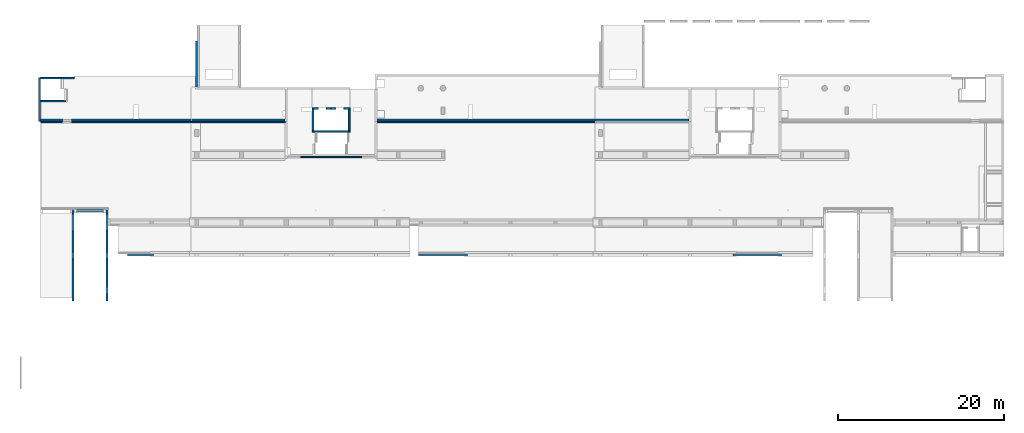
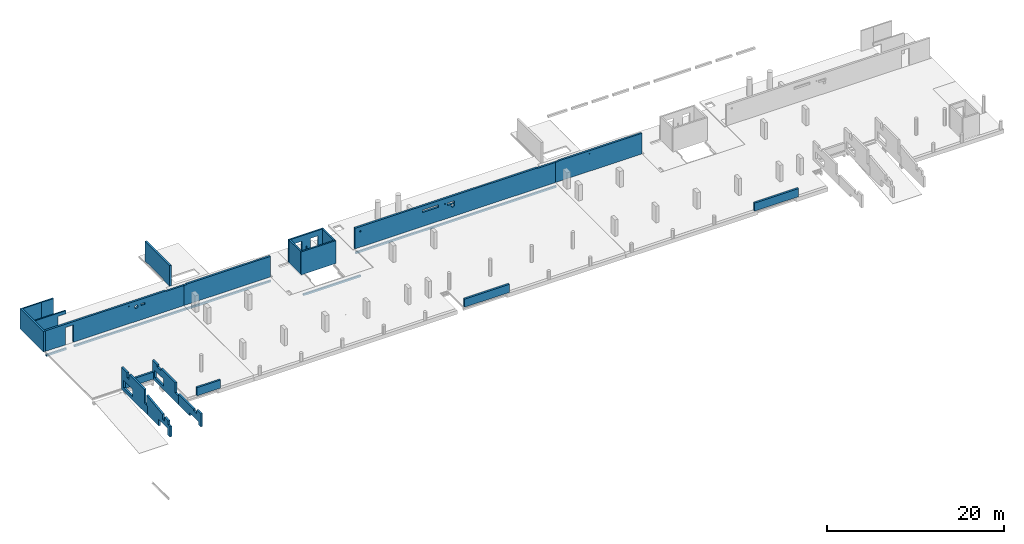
# One storey, part 6 of 10: 26 walls, 32 openings.
"""IFC2X3 building model written with IfcOpenShell, lengths in millimetres."""

from ifc_helpers import new_model, entity, si_unit, converted_unit, derived_unit, direction, frame, frame_2d, origin, origin_2d_with_axis, place, context, subcontext, project, spatial, polyline, rectangle, circle, outline, extrude, clip, halfspace, material, layer, layer_set, layer_usage, type_object, element, save


model = new_model("IFC2X3")

# Units and contexts
model_context = context("Model", 3, precision=0.01, world=origin(), true_north=direction((6.12303176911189e-17, 1.0)))
body_context = subcontext(model_context, "Body", "Model", "MODEL_VIEW")
ifc_project = project(units=[si_unit("LENGTHUNIT", "METRE", prefix="MILLI"), si_unit("AREAUNIT", "SQUARE_METRE"), si_unit("VOLUMEUNIT", "CUBIC_METRE"), converted_unit("PLANEANGLEUNIT", "DEGREE", entity("IfcRatioMeasure", 0.0174532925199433), si_unit("PLANEANGLEUNIT", "RADIAN"), dimensions=[0, 0, 0, 0, 0, 0, 0]), si_unit("MASSUNIT", "GRAM", prefix="KILO"), derived_unit("MASSDENSITYUNIT", [(si_unit("MASSUNIT", "GRAM", prefix="KILO"), 1), (si_unit("LENGTHUNIT", "METRE"), -3)]), si_unit("TIMEUNIT", "SECOND"), si_unit("FREQUENCYUNIT", "HERTZ"), si_unit("THERMODYNAMICTEMPERATUREUNIT", "DEGREE_CELSIUS"), derived_unit("THERMALTRANSMITTANCEUNIT", [(si_unit("MASSUNIT", "GRAM", prefix="KILO"), 1), (si_unit("THERMODYNAMICTEMPERATUREUNIT", "KELVIN"), -1), (si_unit("TIMEUNIT", "SECOND"), -3)]), derived_unit("VOLUMETRICFLOWRATEUNIT", [(si_unit("LENGTHUNIT", "METRE"), 3), (si_unit("TIMEUNIT", "SECOND"), -1)]), si_unit("ELECTRICCURRENTUNIT", "AMPERE"), si_unit("ELECTRICVOLTAGEUNIT", "VOLT"), si_unit("POWERUNIT", "WATT"), si_unit("FORCEUNIT", "NEWTON", prefix="KILO"), si_unit("ILLUMINANCEUNIT", "LUX"), si_unit("LUMINOUSFLUXUNIT", "LUMEN"), si_unit("LUMINOUSINTENSITYUNIT", "CANDELA"), derived_unit("USERDEFINED", [(si_unit("MASSUNIT", "GRAM", prefix="KILO"), -1), (si_unit("LENGTHUNIT", "METRE"), -2), (si_unit("TIMEUNIT", "SECOND"), 3), (si_unit("LUMINOUSFLUXUNIT", "LUMEN"), 1)]), derived_unit("LINEARVELOCITYUNIT", [(si_unit("LENGTHUNIT", "METRE"), 1), (si_unit("TIMEUNIT", "SECOND"), -1)]), si_unit("PRESSUREUNIT", "PASCAL"), derived_unit("USERDEFINED", [(si_unit("LENGTHUNIT", "METRE"), -2), (si_unit("MASSUNIT", "GRAM", prefix="KILO"), 1), (si_unit("TIMEUNIT", "SECOND"), -2)])], contexts=[model_context])

# Site, building, storey
site_placement = place(None, origin())
site = spatial("IfcSite", under=ifc_project, at=site_placement, Name="Default", CompositionType="ELEMENT")
building_placement = place(site_placement, origin())
building = spatial("IfcBuilding", under=site, at=building_placement, Name="niet gebruiken", CompositionType="ELEMENT")
storey_placement = place(building_placement, frame((0.0, 0.0, 9410.0)))
storey = spatial("IfcBuildingStorey", under=building, at=storey_placement, Name="02b tweede tussenverdieping", CompositionType="ELEMENT", Elevation=9409.99999999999)

# Wall, openings
ifc_material_1 = material(Name="NLRS_f2_beton ihwg")
ifc_layer_1 = layer(ifc_material_1, 250.0)
ifc_layer_set_1 = layer_set([ifc_layer_1], Name="Basic Wall:NLRS_22.21_WA_beton ihwg d=250_gen")
ifc_layer_usage_1 = layer_usage(ifc_layer_set_1, "AXIS2", "NEGATIVE", 125.0)
wall_type_1 = type_object("IfcWallType", Name="Basic Wall:NLRS_22.21_WA_beton ihwg d=250_gen", PredefinedType="STANDARD", material=ifc_layer_set_1)
wall_1_placement = place(storey_placement, frame((86275.0, 41186.0, 0.0), z_axis=(0.0, 0.0, 1.0), x_axis=(-1.0, 0.0, 0.0)))
wall_1 = element("IfcWallStandardCase", 1, at=wall_1_placement, inside=storey, type_object=wall_type_1, material=ifc_layer_usage_1, Name="Basic Wall:NLRS_22.21_WA_beton ihwg d=250_gen", ObjectType="Basic Wall:NLRS_22.21_WA_beton ihwg d=250_gen", context=body_context, shape_type="SweptSolid", body=[
    extrude(rectangle(XDim=11305.0000000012, YDim=249.999999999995, at=frame_2d((5652.5000000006, 2.91322521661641e-12), x_axis=(-1.0, 0.0))), origin(), (0.0, 0.0, 1.0), 2850.00000000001),
])
opening_1_placement = place(wall_1_placement, origin())
element("IfcOpeningElement", 2, at=opening_1_placement, cuts=wall_1, Name="Basic Wall:NLRS_22.21_WA_beton ihwg d=250_gen", ObjectType="Opening", context=body_context, shape_type="SweptSolid", body=[
    extrude(circle(Radius=55.0, at=origin_2d_with_axis()), frame((6885.0, -125.0, 2420.0), z_axis=(0.0, 1.0, 0.0), x_axis=(-1.0, 0.0, 0.0)), (0.0, 0.0, 1.0), 250.000000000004),
])
opening_2_placement = place(wall_1_placement, origin())
element("IfcOpeningElement", 3, at=opening_2_placement, cuts=wall_1, Name="Basic Wall:NLRS_22.21_WA_beton ihwg d=250_gen", ObjectType="Opening", context=body_context, shape_type="SweptSolid", body=[
    extrude(rectangle(XDim=69.9999999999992, YDim=355.000000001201, at=frame_2d((1.08002495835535e-12, 0.0), x_axis=(1.0, 0.0))), frame((11127.5000000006, 125.0, 2815.0), z_axis=(0.0, -1.0, 0.0), x_axis=(0.0, 0.0, 1.0)), (0.0, 0.0, 1.0), 250.0),
])

# Wall, opening
ifc_layer_usage_2 = layer_usage(ifc_layer_set_1, "AXIS2", "NEGATIVE", 125.0)
wall_2_placement = place(storey_placement, frame((37675.0, 41186.0, 0.0), z_axis=(0.0, 0.0, 1.0), x_axis=(-1.0, 0.0, 0.0)))
wall_2 = element("IfcWallStandardCase", 4, at=wall_2_placement, inside=storey, type_object=wall_type_1, material=ifc_layer_usage_2, Name="Basic Wall:NLRS_22.21_WA_beton ihwg d=250_gen", ObjectType="Basic Wall:NLRS_22.21_WA_beton ihwg d=250_gen", context=body_context, shape_type="SweptSolid", body=[
    extrude(rectangle(XDim=11304.9999999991, YDim=249.999999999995, at=frame_2d((5652.49999999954, -1.4210854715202e-12), x_axis=(-1.0, 0.0))), origin(), (0.0, 0.0, 1.0), 2849.99999999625),
])
opening_3_placement = place(wall_2_placement, origin())
element("IfcOpeningElement", 5, at=opening_3_placement, cuts=wall_2, Name="Basic Wall:NLRS_22.21_WA_beton ihwg d=250_gen", ObjectType="Opening", context=body_context, shape_type="SweptSolid", body=[
    extrude(rectangle(XDim=74.9999999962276, YDim=355.000000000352, at=origin_2d_with_axis()), frame((11127.4999999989, 125.0, 2812.49999999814), z_axis=(0.0, -1.0, 0.0), x_axis=(0.0, 0.0, 1.0)), (0.0, 0.0, 1.0), 250.0),
])

# Wall, openings
ifc_layer_usage_3 = layer_usage(ifc_layer_set_1, "AXIS2", "NEGATIVE", 125.0)
wall_3_placement = place(storey_placement, frame((74950.0, 41186.0, 0.0), z_axis=(0.0, 0.0, 1.0), x_axis=(-1.0, 0.0, 0.0)))
wall_3 = element("IfcWallStandardCase", 6, at=wall_3_placement, inside=storey, type_object=wall_type_1, material=ifc_layer_usage_3, Name="Basic Wall:NLRS_22.21_WA_beton ihwg d=250_gen", ObjectType="Basic Wall:NLRS_22.21_WA_beton ihwg d=250_gen", context=body_context, shape_type="SweptSolid", body=[
    extrude(rectangle(XDim=26224.9999999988, YDim=249.999999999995, at=frame_2d((13112.4999999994, -2.26663132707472e-12), x_axis=(-1.0, 0.0))), origin(), (0.0, 0.0, 1.0), 2850.00000000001),
])
opening_4_placement = place(wall_3_placement, origin())
element("IfcOpeningElement", 7, at=opening_4_placement, cuts=wall_3, Name="Basic Wall:NLRS_22.21_WA_beton ihwg d=250_gen", ObjectType="Opening", context=body_context, shape_type="SweptSolid", body=[
    extrude(rectangle(XDim=350.000000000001, YDim=2120.0, at=frame_2d((-1.08002495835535e-12, 0.0), x_axis=(1.0, 0.0))), frame((16360.0, -125.0, 2115.0), z_axis=(0.0, 1.0, 0.0), x_axis=(0.0, 0.0, -1.0)), (0.0, 0.0, 1.0), 249.999999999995),
])
opening_5_placement = place(wall_3_placement, origin())
element("IfcOpeningElement", 8, at=opening_5_placement, cuts=wall_3, Name="Basic Wall:NLRS_22.21_WA_beton ihwg d=250_gen", ObjectType="Opening", context=body_context, shape_type="SweptSolid", body=[
    extrude(rectangle(XDim=350.000000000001, YDim=950.000000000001, at=frame_2d((1.08002495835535e-12, 0.0), x_axis=(1.0, 0.0))), frame((13675.0, -125.0, 1935.0), z_axis=(0.0, 1.0, 0.0), x_axis=(0.0, 0.0, -1.0)), (0.0, 0.0, 1.0), 249.999999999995),
])
opening_6_placement = place(wall_3_placement, origin())
element("IfcOpeningElement", 9, at=opening_6_placement, cuts=wall_3, Name="Basic Wall:NLRS_22.21_WA_beton ihwg d=250_gen", ObjectType="Opening", context=body_context, shape_type="SweptSolid", body=[
    extrude(circle(Radius=225.0, at=origin_2d_with_axis()), frame((13425.0, -125.0, 1520.0), z_axis=(0.0, 1.0, 0.0), x_axis=(-1.0, 0.0, 0.0)), (0.0, 0.0, 1.0), 250.000000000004),
])
opening_7_placement = place(wall_3_placement, origin())
element("IfcOpeningElement", 10, at=opening_7_placement, cuts=wall_3, Name="Basic Wall:NLRS_22.21_WA_beton ihwg d=250_gen", ObjectType="Opening", context=body_context, shape_type="SweptSolid", body=[
    extrude(circle(Radius=80.0, at=origin_2d_with_axis()), frame((14465.0, -125.0, 2105.0), z_axis=(0.0, 1.0, 0.0), x_axis=(-1.0, 0.0, 0.0)), (0.0, 0.0, 1.0), 250.000000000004),
])
opening_8_placement = place(wall_3_placement, origin())
element("IfcOpeningElement", 11, at=opening_8_placement, cuts=wall_3, Name="Basic Wall:NLRS_22.21_WA_beton ihwg d=250_gen", ObjectType="Opening", context=body_context, shape_type="SweptSolid", body=[
    extrude(circle(Radius=100.0, at=origin_2d_with_axis()), frame((25525.0, -125.0, 2200.0), z_axis=(0.0, 1.0, 0.0), x_axis=(-1.0, 0.0, 0.0)), (0.0, 0.0, 1.0), 250.000000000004),
])
opening_9_placement = place(wall_3_placement, origin())
element("IfcOpeningElement", 12, at=opening_9_placement, cuts=wall_3, Name="Basic Wall:NLRS_22.21_WA_beton ihwg d=250_gen", ObjectType="Opening", context=body_context, shape_type="SweptSolid", body=[
    extrude(rectangle(XDim=69.9999999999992, YDim=2344.99999999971, at=frame_2d((-8.64019966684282e-12, -1.08002495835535e-12), x_axis=(0.0, 1.0))), frame((1172.49999999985, 125.0, 2815.0), z_axis=(0.0, -1.0, 0.0), x_axis=(-1.0, 0.0, 0.0)), (0.0, 0.0, 1.0), 250.0),
])

ifc_layer_usage_4 = layer_usage(ifc_layer_set_1, "AXIS2", "NEGATIVE", 125.0)
wall_4_placement = place(storey_placement, frame((26350.0, 41186.0, 0.0), z_axis=(0.0, 0.0, 1.0), x_axis=(-1.0, 0.0, 0.0)))
wall_4 = element("IfcWallStandardCase", 13, at=wall_4_placement, inside=storey, type_object=wall_type_1, material=ifc_layer_usage_4, Name="Basic Wall:NLRS_22.21_WA_beton ihwg d=250_gen", ObjectType="Basic Wall:NLRS_22.21_WA_beton ihwg d=250_gen", context=body_context, shape_type="SweptSolid", body=[
    extrude(rectangle(XDim=18124.9999999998, YDim=249.999999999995, at=frame_2d((9062.49999999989, -1.30739863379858e-12), x_axis=(-1.0, 0.0))), origin(), (0.0, 0.0, 1.0), 2849.9999999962),
])
opening_10_placement = place(wall_4_placement, origin())
element("IfcOpeningElement", 14, at=opening_10_placement, cuts=wall_4, Name="Basic Wall:NLRS_22.21_WA_beton ihwg d=250_gen", ObjectType="Opening", context=body_context, shape_type="SweptSolid", body=[
    extrude(rectangle(XDim=2380.0, YDim=1025.0, at=frame_2d((-1.08002495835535e-12, -1.02318153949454e-12), x_axis=(0.0, 1.0))), frame((14937.5000000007, -1399.0, 1190.0), z_axis=(0.0, 1.0, 0.0), x_axis=(-1.0, 0.0, 0.0)), (0.0, 0.0, 1.0), 3048.0),
])
opening_11_placement = place(wall_4_placement, origin())
element("IfcOpeningElement", 15, at=opening_11_placement, cuts=wall_4, Name="Basic Wall:NLRS_22.21_WA_beton ihwg d=250_gen", ObjectType="Opening", context=body_context, shape_type="SweptSolid", body=[
    extrude(circle(Radius=225.0, at=origin_2d_with_axis()), frame((6215.0, -125.0, 2020.0), z_axis=(0.0, 1.0, 0.0), x_axis=(-1.0, 0.0, 0.0)), (0.0, 0.0, 1.0), 250.000000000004),
])
opening_12_placement = place(wall_4_placement, origin())
element("IfcOpeningElement", 16, at=opening_12_placement, cuts=wall_4, Name="Basic Wall:NLRS_22.21_WA_beton ihwg d=250_gen", ObjectType="Opening", context=body_context, shape_type="SweptSolid", body=[
    extrude(rectangle(XDim=249.999999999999, YDim=550.000000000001, at=frame_2d((0.0, -2.1600499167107e-12), x_axis=(1.0, 0.0))), frame((5365.0, -125.0, 2090.0), z_axis=(0.0, 1.0, 0.0), x_axis=(0.0, 0.0, -1.0)), (0.0, 0.0, 1.0), 249.999999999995),
])
opening_13_placement = place(wall_4_placement, origin())
element("IfcOpeningElement", 17, at=opening_13_placement, cuts=wall_4, Name="Basic Wall:NLRS_22.21_WA_beton ihwg d=250_gen", ObjectType="Opening", context=body_context, shape_type="SweptSolid", body=[
    extrude(circle(Radius=55.0, at=origin_2d_with_axis()), frame((7190.0, -125.0, 2420.0), z_axis=(0.0, 1.0, 0.0), x_axis=(-1.0, 0.0, 0.0)), (0.0, 0.0, 1.0), 450.000000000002),
])
opening_14_placement = place(wall_4_placement, origin())
element("IfcOpeningElement", 18, at=opening_14_placement, cuts=wall_4, Name="Basic Wall:NLRS_22.21_WA_beton ihwg d=250_gen", ObjectType="Opening", context=body_context, shape_type="SweptSolid", body=[
    extrude(rectangle(XDim=69.9999999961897, YDim=2344.99999999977, at=frame_2d((2.1600499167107e-12, 0.0), x_axis=(0.0, 1.0))), frame((1172.49999999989, 125.0, 2815.0), z_axis=(0.0, -1.0, 0.0), x_axis=(-1.0, 0.0, 0.0)), (0.0, 0.0, 1.0), 250.0),
])

# Wall
ifc_material_2 = material(Name="NLRS_f2_beton prefab")
ifc_layer_2 = layer(ifc_material_2, 250.0)
ifc_layer_set_2 = layer_set([ifc_layer_2], Name="Basic Wall:NLRS_22.21_WA_beton prefab d=250_gen")
ifc_layer_usage_5 = layer_usage(ifc_layer_set_2, "AXIS2", "NEGATIVE", 125.0)
wall_type_2 = type_object("IfcWallType", Name="Basic Wall:NLRS_22.21_WA_beton prefab d=250_gen", PredefinedType="STANDARD", material=ifc_layer_set_2)
wall_5_placement = place(storey_placement, frame((8100.0, 41061.0, 20.0), z_axis=(0.0, 0.0, 1.0), x_axis=(0.0, 1.0, 0.0)))
element("IfcWallStandardCase", 19, at=wall_5_placement, inside=storey, type_object=wall_type_2, material=ifc_layer_usage_5, Name="Basic Wall:NLRS_22.21_WA_beton prefab d=250_gen", ObjectType="Basic Wall:NLRS_22.21_WA_beton prefab d=250_gen", context=body_context, shape_type="SweptSolid", body=[
    extrude(rectangle(XDim=5294.99999999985, YDim=249.999999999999, at=frame_2d((2647.49999999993, 2.41584530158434e-13), x_axis=(-1.0, 0.0))), origin(), (0.0, 0.0, 1.0), 2829.9999999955),
])

# Wall, openings
ifc_layer_usage_6 = layer_usage(ifc_layer_set_2, "AXIS2", "NEGATIVE", 125.0)
wall_6_placement = place(storey_placement, frame((16200.0, 30426.0, -50.0), z_axis=(0.0, 0.0, 1.0), x_axis=(0.0, -1.0, 0.0)))
wall_6 = element("IfcWallStandardCase", 20, at=wall_6_placement, inside=storey, type_object=wall_type_2, material=ifc_layer_usage_6, Name="Basic Wall:NLRS_22.21_WA_beton prefab d=250_gen", ObjectType="Basic Wall:NLRS_22.21_WA_beton prefab d=250_gen", context=body_context, shape_type="Clipping", body=[
    clip(extrude(rectangle(XDim=5935.0, YDim=249.999999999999, at=frame_2d((2967.5, 0.0), x_axis=(-1.0, 0.0))), origin(), (0.0, 0.0, 1.0), 2580.0), halfspace(frame((0.0, -125.0, 2580.0), z_axis=(0.0, 0.0, 1.0), x_axis=(0.0, 1.0, 0.0)), False)),
])
opening_15_placement = place(wall_6_placement, origin())
element("IfcOpeningElement", 21, at=opening_15_placement, cuts=wall_6, Name="Basic Wall:NLRS_22.21_WA_beton prefab d=250_gen", ObjectType="Opening", context=body_context, shape_type="SweptSolid", body=[
    extrude(rectangle(XDim=1020.0, YDim=2000.0, at=frame_2d((0.0, -2.1600499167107e-12), x_axis=(1.0, 0.0))), frame((1550.0, -1649.0, 990.0), z_axis=(0.0, 1.0, 0.0), x_axis=(0.0, 0.0, 1.0)), (0.0, 0.0, 1.0), 3048.0),
])
opening_16_placement = place(wall_6_placement, origin())
element("IfcOpeningElement", 22, at=opening_16_placement, cuts=wall_6, Name="Basic Wall:NLRS_22.21_WA_beton prefab d=250_gen", ObjectType="Opening", context=body_context, shape_type="SweptSolid", body=[
    extrude(rectangle(XDim=1380.0, YDim=730.000000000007, at=frame_2d((1.08002495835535e-12, 0.0), x_axis=(1.0, 0.0))), frame((5570.0, 125.0, 1890.0), z_axis=(0.0, -1.0, 0.0), x_axis=(0.0, 0.0, 1.0)), (0.0, 0.0, 1.0), 250.0),
])
opening_17_placement = place(wall_6_placement, origin())
element("IfcOpeningElement", 23, at=opening_17_placement, cuts=wall_6, Name="Basic Wall:NLRS_22.21_WA_beton prefab d=250_gen", ObjectType="Opening", context=body_context, shape_type="SweptSolid", body=[
    extrude(rectangle(XDim=259.999999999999, YDim=840.0, at=frame_2d((0.0, 1.08002495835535e-12), x_axis=(0.0, 1.0))), frame((1545.0, 125.0, 2450.0), z_axis=(0.0, -1.0, 0.0), x_axis=(-1.0, 0.0, 0.0)), (0.0, 0.0, 1.0), 250.0),
])

ifc_layer_usage_7 = layer_usage(ifc_layer_set_2, "AXIS2", "NEGATIVE", 125.0)
wall_7_placement = place(storey_placement, frame((12150.0, 30426.0, -50.0), z_axis=(0.0, 0.0, 1.0), x_axis=(0.0, -1.0, 0.0)))
wall_7 = element("IfcWallStandardCase", 24, at=wall_7_placement, inside=storey, type_object=wall_type_2, material=ifc_layer_usage_7, Name="Basic Wall:NLRS_22.21_WA_beton prefab d=250_gen", ObjectType="Basic Wall:NLRS_22.21_WA_beton prefab d=250_gen", context=body_context, shape_type="SweptSolid", body=[
    extrude(rectangle(XDim=5935.00000000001, YDim=249.999999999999, at=frame_2d((2967.50000000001, 0.0), x_axis=(-1.0, 0.0))), origin(), (0.0, 0.0, 1.0), 3080.0),
])
opening_18_placement = place(wall_7_placement, origin())
element("IfcOpeningElement", 25, at=opening_18_placement, cuts=wall_7, Name="Basic Wall:NLRS_22.21_WA_beton prefab d=250_gen", ObjectType="Opening", context=body_context, shape_type="SweptSolid", body=[
    extrude(rectangle(XDim=1020.0, YDim=2000.0, at=frame_2d((0.0, -2.1600499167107e-12), x_axis=(1.0, 0.0))), frame((1550.0, -1649.0, 990.0), z_axis=(0.0, 1.0, 0.0), x_axis=(0.0, 0.0, 1.0)), (0.0, 0.0, 1.0), 3048.0),
])
opening_19_placement = place(wall_7_placement, origin())
element("IfcOpeningElement", 26, at=opening_19_placement, cuts=wall_7, Name="Basic Wall:NLRS_22.21_WA_beton prefab d=250_gen", ObjectType="Opening", context=body_context, shape_type="SweptSolid", body=[
    extrude(rectangle(XDim=1880.0, YDim=729.999999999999, at=origin_2d_with_axis()), frame((5570.0, 125.0, 2140.0), z_axis=(0.0, -1.0, 0.0), x_axis=(0.0, 0.0, 1.0)), (0.0, 0.0, 1.0), 250.0),
])
opening_20_placement = place(wall_7_placement, origin())
element("IfcOpeningElement", 27, at=opening_20_placement, cuts=wall_7, Name="Basic Wall:NLRS_22.21_WA_beton prefab d=250_gen", ObjectType="Opening", context=body_context, shape_type="SweptSolid", body=[
    extrude(outline(polyline([(-755.0, -279.666666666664), (1030.0, -279.666666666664), (1030.0, -199.666666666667), (-275.0, -199.666666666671), (-275.0, 479.333333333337), (-755.0, 479.333333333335), (-755.0, -279.666666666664)])), frame((1030.0, 125.0, 2800.33333333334), z_axis=(0.0, -1.0, 0.0), x_axis=(-1.0, 0.0, 0.0)), (0.0, 0.0, 1.0), 250.0),
])

# Wall
ifc_layer_usage_8 = layer_usage(ifc_layer_set_2, "AXIS2", "NEGATIVE", 125.0)
wall_8_placement = place(storey_placement, frame((12275.0, 30301.0, 30.0)))
element("IfcWallStandardCase", 28, at=wall_8_placement, inside=storey, type_object=wall_type_2, material=ifc_layer_usage_8, Name="Basic Wall:NLRS_22.21_WA_beton prefab d=250_gen", ObjectType="Basic Wall:NLRS_22.21_WA_beton prefab d=250_gen", context=body_context, shape_type="SweptSolid", body=[
    extrude(rectangle(XDim=3799.99999999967, YDim=250.000000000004, at=frame_2d((1899.99999999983, -1.27897692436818e-13), x_axis=(-1.0, 0.0))), origin(), (0.0, 0.0, 1.0), 969.999999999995),
])

# Wall, openings
ifc_layer_usage_9 = layer_usage(ifc_layer_set_2, "AXIS2", "NEGATIVE", 125.0)
wall_9_placement = place(storey_placement, frame((12150.0, 24731.0, -50.0), z_axis=(0.0, 0.0, 1.0), x_axis=(0.0, -1.0, 0.0)))
wall_9 = element("IfcWallStandardCase", 29, at=wall_9_placement, inside=storey, type_object=wall_type_2, material=ifc_layer_usage_9, Name="Basic Wall:NLRS_22.21_WA_beton prefab d=250_gen", ObjectType="Basic Wall:NLRS_22.21_WA_beton prefab d=250_gen", context=body_context, shape_type="Clipping", body=[
    clip(clip(clip(clip(extrude(rectangle(XDim=5304.99999999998, YDim=249.999999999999, at=frame_2d((2652.49999999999, 0.0), x_axis=(-1.0, 0.0))), origin(), (0.0, 0.0, 1.0), 2589.58593307), halfspace(frame((0.0, -125.0, 2589.58593307), z_axis=(0.12382691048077, 0.0, 0.992303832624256), x_axis=(0.0, 1.0, 0.0)), False)), halfspace(frame((4125.0, -125.0, 2074.83834373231), z_axis=(0.123826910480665, 0.0, 0.992303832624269), x_axis=(0.0, 1.0, 0.0)), False)), halfspace(frame((3645.0, 0.0, 2134.73624503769), z_axis=(0.123826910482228, 0.0, 0.992303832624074), x_axis=(0.0, -1.0, 0.0)), False)), halfspace(frame((4885.0, 0.0, 1980.0), z_axis=(0.771930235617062, 0.0, 0.635707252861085), x_axis=(0.0, -1.0, 0.0)), False)),
])
opening_21_placement = place(wall_9_placement, origin())
element("IfcOpeningElement", 30, at=opening_21_placement, cuts=wall_9, Name="Basic Wall:NLRS_22.21_WA_beton prefab d=250_gen", ObjectType="Opening", context=body_context, shape_type="SweptSolid", body=[
    extrude(rectangle(XDim=939.999999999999, YDim=2000.0, at=frame_2d((0.0, -2.1600499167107e-12), x_axis=(1.0, 0.0))), frame((3755.0, 125.0, 470.0), z_axis=(0.0, -1.0, 0.0), x_axis=(0.0, 0.0, 1.0)), (0.0, 0.0, 1.0), 250.0),
])
opening_22_placement = place(wall_9_placement, origin())
element("IfcOpeningElement", 31, at=opening_22_placement, cuts=wall_9, Name="Basic Wall:NLRS_22.21_WA_beton prefab d=250_gen", ObjectType="Opening", context=body_context, shape_type="SweptSolid", body=[
    extrude(rectangle(XDim=1220.0, YDim=259.999999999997, at=frame_2d((1.08002495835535e-12, 2.1600499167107e-12), x_axis=(1.0, 0.0))), frame((130.0, 125.0, 610.0), z_axis=(0.0, -1.0, 0.0), x_axis=(0.0, 0.0, 1.0)), (0.0, 0.0, 1.0), 250.0),
])
opening_23_placement = place(wall_9_placement, origin())
element("IfcOpeningElement", 32, at=opening_23_placement, cuts=wall_9, Name="Basic Wall:NLRS_22.21_WA_beton prefab d=250_gen", ObjectType="Opening", context=body_context, shape_type="SweptSolid", body=[
    extrude(outline(polyline([(-347.342597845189, -240.0), (317.393647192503, -240.0), (317.3936471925, 240.0), (-287.444696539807, 240.0), (-347.342597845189, -240.0)])), frame((3885.0, 125.0, 1787.3936471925), z_axis=(0.0, -1.0, 0.0), x_axis=(0.0, 0.0, -1.0)), (0.0, 0.0, 1.0), 250.0),
])
opening_24_placement = place(wall_9_placement, origin())
element("IfcOpeningElement", 33, at=opening_24_placement, cuts=wall_9, Name="Basic Wall:NLRS_22.21_WA_beton prefab d=250_gen", ObjectType="Opening", context=body_context, shape_type="SweptSolid", body=[
    extrude(outline(polyline([(-340.0, -140.0), (170.0, -140.0), (170.0, 280.0), (-340.0, -140.0)])), frame((5025.0, 125.0, 1640.0), z_axis=(0.0, -1.0, 0.0), x_axis=(0.0, 0.0, -1.0)), (0.0, 0.0, 1.0), 250.0),
])

ifc_layer_usage_10 = layer_usage(ifc_layer_set_2, "AXIS2", "NEGATIVE", 125.0)
wall_10_placement = place(storey_placement, frame((16200.0, 24531.0, -50.0), z_axis=(0.0, 0.0, 1.0), x_axis=(0.0, -1.0, 0.0)))
wall_10 = element("IfcWallStandardCase", 34, at=wall_10_placement, inside=storey, type_object=wall_type_2, material=ifc_layer_usage_10, Name="Basic Wall:NLRS_22.21_WA_beton prefab d=250_gen", ObjectType="Basic Wall:NLRS_22.21_WA_beton prefab d=250_gen", context=body_context, shape_type="Clipping", body=[
    clip(extrude(rectangle(XDim=5104.99999999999, YDim=249.999999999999, at=frame_2d((2552.5, 0.0), x_axis=(-1.0, 0.0))), origin(), (0.0, 0.0, 1.0), 1780.0), halfspace(frame((4155.0, -125.0, 1780.0), z_axis=(0.0, 0.0, 1.0), x_axis=(0.0, 1.0, 0.0)), False)),
])
opening_25_placement = place(wall_10_placement, origin())
element("IfcOpeningElement", 35, at=opening_25_placement, cuts=wall_10, Name="Basic Wall:NLRS_22.21_WA_beton prefab d=250_gen", ObjectType="Opening", context=body_context, shape_type="SweptSolid", body=[
    extrude(rectangle(XDim=940.000000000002, YDim=2000.0, at=frame_2d((-5.40012479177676e-13, 2.1600499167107e-12), x_axis=(1.0, 0.0))), frame((3555.0, -1649.0, -90.0), z_axis=(0.0, 1.0, 0.0), x_axis=(0.0, 0.0, 1.0)), (0.0, 0.0, 1.0), 3048.0),
])
opening_26_placement = place(wall_10_placement, origin())
element("IfcOpeningElement", 36, at=opening_26_placement, cuts=wall_10, Name="Basic Wall:NLRS_22.21_WA_beton prefab d=250_gen", ObjectType="Opening", context=body_context, shape_type="SweptSolid", body=[
    extrude(outline(polyline([(-1615.0, -300.0), (2540.0, -300.0), (2540.0, 20.0), (-925.0, 20.0), (-925.0, 280.0), (-1615.0, 280.0), (-1615.0, -300.0)])), frame((2540.0, 125.0, 1480.0), z_axis=(0.0, -1.0, 0.0), x_axis=(-1.0, 0.0, 0.0)), (0.0, 0.0, 1.0), 250.0),
])
opening_27_placement = place(wall_10_placement, origin())
element("IfcOpeningElement", 37, at=opening_27_placement, cuts=wall_10, Name="Basic Wall:NLRS_22.21_WA_beton prefab d=250_gen", ObjectType="Opening", context=body_context, shape_type="SweptSolid", body=[
    extrude(rectangle(XDim=1220.0, YDim=59.999999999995, at=frame_2d((-1.08002495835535e-12, 0.0), x_axis=(1.0, 0.0))), frame((30.0, 125.0, 610.0), z_axis=(0.0, -1.0, 0.0), x_axis=(0.0, 0.0, -1.0)), (0.0, 0.0, 1.0), 250.0),
])

# Wall
ifc_layer_3 = layer(ifc_material_2, 180.0)
ifc_layer_set_3 = layer_set([ifc_layer_3], Name="Basic Wall:NLRS_22.21_WA_beton prefab d=180_gen")
ifc_layer_usage_11 = layer_usage(ifc_layer_set_3, "AXIS2", "NEGATIVE", 90.0)
wall_type_3 = type_object("IfcWallType", Name="Basic Wall:NLRS_22.21_WA_beton prefab d=180_gen", PredefinedType="STANDARD", material=ifc_layer_set_3)
wall_11_placement = place(storey_placement, frame((10670.0, 46266.0, 20.0), z_axis=(0.0, 0.0, 1.0), x_axis=(-1.0, 0.0, 0.0)))
element("IfcWallStandardCase", 38, at=wall_11_placement, inside=storey, type_object=wall_type_3, material=ifc_layer_usage_11, Name="Basic Wall:NLRS_22.21_WA_beton prefab d=180_gen", ObjectType="Basic Wall:NLRS_22.21_WA_beton prefab d=180_gen", context=body_context, shape_type="SweptSolid", body=[
    extrude(rectangle(XDim=2445.00027841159, YDim=179.999999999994, at=frame_2d((1222.50013920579, 1.92557081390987e-12), x_axis=(-1.0, 0.0))), origin(), (0.0, 0.0, 1.0), 2800.00000000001),
])

# Wall, opening
ifc_layer_usage_12 = layer_usage(ifc_layer_set_3, "AXIS2", "NEGATIVE", 90.0)
wall_12_placement = place(storey_placement, frame((12275.0, 43486.0, 20.0), z_axis=(0.0, 0.0, 1.0), x_axis=(-1.0, 0.0, 0.0)))
wall_12 = element("IfcWallStandardCase", 39, at=wall_12_placement, inside=storey, type_object=wall_type_3, material=ifc_layer_usage_12, Name="Basic Wall:NLRS_22.21_WA_beton prefab d=180_gen", ObjectType="Basic Wall:NLRS_22.21_WA_beton prefab d=180_gen", context=body_context, shape_type="SweptSolid", body=[
    extrude(rectangle(XDim=4050.0, YDim=179.999999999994, at=frame_2d((2025.0, 1.10134124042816e-12), x_axis=(-1.0, 0.0))), origin(), (0.0, 0.0, 1.0), 2800.00000000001),
])
opening_28_placement = place(wall_12_placement, origin())
element("IfcOpeningElement", 40, at=opening_28_placement, cuts=wall_12, Name="Basic Wall:NLRS_22.21_WA_beton prefab d=180_gen", ObjectType="Opening", context=body_context, shape_type="SweptSolid", body=[
    extrude(rectangle(XDim=2360.0, YDim=1024.9996333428, at=frame_2d((0.0, 1.13686837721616e-12), x_axis=(1.0, 0.0))), frame((512.4998166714, 90.0, 1180.0), z_axis=(0.0, -1.0, 0.0), x_axis=(0.0, 0.0, -1.0)), (0.0, 0.0, 1.0), 180.0),
])

# Wall
ifc_layer_usage_13 = layer_usage(ifc_layer_set_3, "AXIS2", "POSITIVE", -90.0)
wall_13_placement = place(storey_placement, frame((12274.9999049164, 46266.0, 20.0), z_axis=(0.0, 0.0, 1.0), x_axis=(-1.0, 0.0, 0.0)))
element("IfcWallStandardCase", 41, at=wall_13_placement, inside=storey, type_object=wall_type_3, material=ifc_layer_usage_13, Name="Basic Wall:NLRS_22.21_WA_beton prefab d=180_gen", ObjectType="Basic Wall:NLRS_22.21_WA_beton prefab d=180_gen", context=body_context, shape_type="SweptSolid", body=[
    extrude(rectangle(XDim=1604.99990491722, YDim=179.999999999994, at=frame_2d((802.499952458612, 0.0), x_axis=(-1.0, 0.0))), origin(), (0.0, 0.0, 1.0), 2800.00000000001),
])

# Wall, openings
ifc_layer_4 = layer(ifc_material_2, 200.0)
ifc_layer_set_4 = layer_set([ifc_layer_4], Name="Basic Wall:NLRS_22.21_WA_beton prefab d=200_gen")
ifc_layer_usage_14 = layer_usage(ifc_layer_set_4, "AXIS2", "NEGATIVE", 100.0)
wall_type_4 = type_object("IfcWallType", Name="Basic Wall:NLRS_22.21_WA_beton prefab d=200_gen", PredefinedType="STANDARD", material=ifc_layer_set_4)
wall_14_placement = place(storey_placement, frame((40924.9998491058, 42596.0, -70.0)))
wall_14 = element("IfcWallStandardCase", 42, at=wall_14_placement, inside=storey, type_object=wall_type_4, material=ifc_layer_usage_14, Name="Basic Wall:NLRS_22.21_WA_beton prefab d=200_gen", ObjectType="Basic Wall:NLRS_22.21_WA_beton prefab d=200_gen", context=body_context, shape_type="SweptSolid", body=[
    extrude(rectangle(XDim=4549.9999999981, YDim=200.000000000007, at=frame_2d((2274.99999999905, 0.0), x_axis=(-1.0, 0.0))), origin(), (0.0, 0.0, 1.0), 3170.00000000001),
])
opening_29_placement = place(wall_14_placement, origin())
element("IfcOpeningElement", 43, at=opening_29_placement, cuts=wall_14, Name="Basic Wall:NLRS_22.21_WA_beton prefab d=200_gen", ObjectType="Opening", context=body_context, shape_type="SweptSolid", body=[
    extrude(rectangle(XDim=2430.0, YDim=980.000000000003, at=frame_2d((4.54747350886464e-13, 0.0), x_axis=(1.0, 0.0))), frame((3330.0, -1624.0, 1195.0), z_axis=(0.0, 1.0, 0.0), x_axis=(0.0, 0.0, 1.0)), (0.0, 0.0, 1.0), 3048.0),
])
opening_30_placement = place(wall_14_placement, origin())
element("IfcOpeningElement", 44, at=opening_30_placement, cuts=wall_14, Name="Basic Wall:NLRS_22.21_WA_beton prefab d=200_gen", ObjectType="Opening", context=body_context, shape_type="SweptSolid", body=[
    extrude(rectangle(XDim=2430.0, YDim=980.000000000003, at=frame_2d((4.54747350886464e-13, 0.0), x_axis=(1.0, 0.0))), frame((1220.0, -1624.0, 1195.0), z_axis=(0.0, 1.0, 0.0), x_axis=(0.0, 0.0, 1.0)), (0.0, 0.0, 1.0), 3048.0),
])
opening_31_placement = place(wall_14_placement, origin())
element("IfcOpeningElement", 45, at=opening_31_placement, cuts=wall_14, Name="Basic Wall:NLRS_22.21_WA_beton prefab d=200_gen", ObjectType="Opening", context=body_context, shape_type="SweptSolid", body=[
    extrude(rectangle(XDim=505.000000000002, YDim=135.000000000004, at=origin_2d_with_axis()), frame((2275.000150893, -1624.0, 1272.5), z_axis=(0.0, 1.0, 0.0), x_axis=(0.0, 0.0, 1.0)), (0.0, 0.0, 1.0), 3048.0),
])

# Walls
ifc_layer_usage_15 = layer_usage(ifc_layer_set_4, "AXIS2", "NEGATIVE", 100.0)
wall_15_placement = place(storey_placement, frame((41024.9998491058, 39946.0, -70.0), z_axis=(0.0, 0.0, 1.0), x_axis=(0.0, 1.0, 0.0)))
element("IfcWallStandardCase", 46, at=wall_15_placement, inside=storey, type_object=wall_type_4, material=ifc_layer_usage_15, Name="Basic Wall:NLRS_22.21_WA_beton prefab d=200_gen", ObjectType="Basic Wall:NLRS_22.21_WA_beton prefab d=200_gen", context=body_context, shape_type="SweptSolid", body=[
    extrude(rectangle(XDim=2549.99999999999, YDim=200.000000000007, at=frame_2d((1275.0, 0.0), x_axis=(-1.0, 0.0))), origin(), (0.0, 0.0, 1.0), 3170.00000000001),
])
ifc_layer_usage_16 = layer_usage(ifc_layer_set_4, "AXIS2", "NEGATIVE", 100.0)
wall_16_placement = place(storey_placement, frame((45374.9998491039, 42496.0, -70.0), z_axis=(0.0, 0.0, 1.0), x_axis=(0.0, -1.0, 0.0)))
element("IfcWallStandardCase", 47, at=wall_16_placement, inside=storey, type_object=wall_type_4, material=ifc_layer_usage_16, Name="Basic Wall:NLRS_22.21_WA_beton prefab d=200_gen", ObjectType="Basic Wall:NLRS_22.21_WA_beton prefab d=200_gen", context=body_context, shape_type="SweptSolid", body=[
    extrude(rectangle(XDim=2549.99999999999, YDim=200.000000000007, at=frame_2d((1275.0, 2.34479102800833e-13), x_axis=(-1.0, 0.0))), origin(), (0.0, 0.0, 1.0), 3170.0),
])
ifc_layer_usage_17 = layer_usage(ifc_layer_set_4, "AXIS2", "NEGATIVE", 100.0)
wall_17_placement = place(storey_placement, frame((45474.999849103, 39846.0, -70.0), z_axis=(0.0, 0.0, 1.0), x_axis=(-1.0, 0.0, 0.0)))
element("IfcWallStandardCase", 48, at=wall_17_placement, inside=storey, type_object=wall_type_4, material=ifc_layer_usage_17, Name="Basic Wall:NLRS_22.21_WA_beton prefab d=200_gen", ObjectType="Basic Wall:NLRS_22.21_WA_beton prefab d=200_gen", context=body_context, shape_type="SweptSolid", body=[
    extrude(rectangle(XDim=4549.99999999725, YDim=200.000000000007, at=frame_2d((2274.99999999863, 0.0), x_axis=(-1.0, 0.0))), origin(), (0.0, 0.0, 1.0), 3170.00000000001),
])

# Wall, opening
ifc_layer_5 = layer(ifc_material_1, 250.0)
ifc_layer_set_5 = layer_set([ifc_layer_5], Name="Basic Wall:NLRS_21.21_WA_beton ihwg d=250_gen")
ifc_layer_usage_18 = layer_usage(ifc_layer_set_5, "AXIS2", "NEGATIVE", 125.0)
wall_type_5 = type_object("IfcWallType", Name="Basic Wall:NLRS_21.21_WA_beton ihwg d=250_gen", PredefinedType="STANDARD", material=ifc_layer_set_5)
wall_18_placement = place(storey_placement, frame((26975.0, 45176.0, 0.0), z_axis=(0.0, 0.0, 1.0), x_axis=(0.0, 1.0, 0.0)))
wall_18 = element("IfcWallStandardCase", 49, at=wall_18_placement, inside=storey, type_object=wall_type_5, material=ifc_layer_usage_18, Name="Basic Wall:NLRS_21.21_WA_beton ihwg d=250_gen", ObjectType="Basic Wall:NLRS_21.21_WA_beton ihwg d=250_gen", context=body_context, shape_type="Clipping", body=[
    clip(extrude(rectangle(XDim=5580.0000000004, YDim=250.000000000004, at=frame_2d((2790.0000000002, -7.105427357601e-15), x_axis=(-1.0, 0.0))), origin(), (0.0, 0.0, 1.0), 2849.99999999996), halfspace(frame((0.0, -125.0, 2850.0), z_axis=(0.0, 0.0, 1.0), x_axis=(0.0, 1.0, 0.0)), False)),
])
opening_32_placement = place(wall_18_placement, origin())
element("IfcOpeningElement", 50, at=opening_32_placement, cuts=wall_18, Name="Basic Wall:NLRS_21.21_WA_beton ihwg d=250_gen", ObjectType="Opening", context=body_context, shape_type="SweptSolid", body=[
    extrude(rectangle(XDim=130.000000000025, YDim=4260.00000000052, at=frame_2d((0.0, -9.74154090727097e-12), x_axis=(0.0, 1.0))), frame((3450.0, 125.0, 65.0), z_axis=(0.0, -1.0, 0.0), x_axis=(1.0, 0.0, 0.0)), (0.0, 0.0, 1.0), 250.0),
])

# Walls
wall_type_6 = type_object("IfcWallType", Name="NLRS_21.21_SF_WPB_oplegnok ihwg beton_gen:200x250", PredefinedType="NOTDEFINED", material=ifc_material_1)
wall_19_placement = place(storey_placement, frame((48745.0, 40861.0, -580.0)))
element("IfcWall", 51, at=wall_19_placement, inside=storey, type_object=wall_type_6, material=ifc_material_1, Name="NLRS_21.21_SF_WPB_oplegnok ihwg beton_gen:200x250", ObjectType="NLRS_21.21_SF_WPB_oplegnok ihwg beton_gen:200x250", context=body_context, shape_type="SweptSolid", body=[
    extrude(rectangle(XDim=26204.9999999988, YDim=199.999999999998, at=frame_2d((-4.54747350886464e-12, -4.33431068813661e-12), x_axis=(1.0, 0.0))), frame((13102.4999999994, 100.0, 0.0)), (0.0, 0.0, 1.0), 250.000000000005),
])
wall_20_placement = place(storey_placement, frame((26370.0, 40861.0, -580.0)))
element("IfcWall", 52, at=wall_20_placement, inside=storey, type_object=wall_type_6, material=ifc_material_1, Name="NLRS_21.21_SF_WPB_oplegnok ihwg beton_gen:200x250", ObjectType="NLRS_21.21_SF_WPB_oplegnok ihwg beton_gen:200x250", context=body_context, shape_type="SweptSolid", body=[
    extrude(rectangle(XDim=11285.0, YDim=199.999999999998, at=frame_2d((-2.27373675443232e-12, -4.33431068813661e-12), x_axis=(1.0, 0.0))), frame((5642.50000000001, 100.0, 0.0)), (0.0, 0.0, 1.0), 250.000000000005),
])
wall_21_placement = place(storey_placement, frame((11925.0, 40861.0, -580.0)))
element("IfcWall", 53, at=wall_21_placement, inside=storey, type_object=wall_type_6, material=ifc_material_1, Name="NLRS_21.21_SF_WPB_oplegnok ihwg beton_gen:200x250", ObjectType="NLRS_21.21_SF_WPB_oplegnok ihwg beton_gen:200x250", context=body_context, shape_type="SweptSolid", body=[
    extrude(rectangle(XDim=14425.0000000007, YDim=199.999999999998, at=origin_2d_with_axis()), frame((7212.50000000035, 100.0, 0.0)), (0.0, 0.0, 1.0), 250.000000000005),
])
wall_22_placement = place(storey_placement, frame((39455.0, 36656.0, -580.0)))
element("IfcWall", 54, at=wall_22_placement, inside=storey, type_object=wall_type_6, material=ifc_material_1, Name="NLRS_21.21_SF_WPB_oplegnok ihwg beton_gen:200x250", ObjectType="NLRS_21.21_SF_WPB_oplegnok ihwg beton_gen:200x250", context=body_context, shape_type="SweptSolid", body=[
    extrude(rectangle(XDim=7490.0, YDim=200.000000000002, at=frame_2d((4.32009983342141e-12, -4.33431068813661e-12), x_axis=(1.0, 0.0))), frame((3745.0, 100.0, 0.0)), (0.0, 0.0, 1.0), 250.000000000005),
])
wall_23_placement = place(storey_placement, frame((8245.0, 40861.0, -580.0)))
element("IfcWall", 55, at=wall_23_placement, inside=storey, type_object=wall_type_6, material=ifc_material_1, Name="NLRS_21.21_SF_WPB_oplegnok ihwg beton_gen:200x250", ObjectType="NLRS_21.21_SF_WPB_oplegnok ihwg beton_gen:200x250", context=body_context, shape_type="SweptSolid", body=[
    extrude(rectangle(XDim=2654.99999999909, YDim=199.999999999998, at=frame_2d((0.0, 4.33431068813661e-12), x_axis=(1.0, 0.0))), frame((1327.49999999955, 100.0, 0.0)), (0.0, 0.0, 1.0), 250.000000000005),
])
ifc_layer_6 = layer(ifc_material_2, 250.0)
ifc_layer_set_6 = layer_set([ifc_layer_6], Name="Basic Wall:NLRS_16.21_WA_beton prefab d=250_gen")
ifc_layer_usage_19 = layer_usage(ifc_layer_set_6, "AXIS2", "NEGATIVE", 125.0)
wall_type_7 = type_object("IfcWallType", Name="Basic Wall:NLRS_16.21_WA_beton prefab d=250_gen", PredefinedType="STANDARD", material=ifc_layer_set_6)
wall_24_placement = place(storey_placement, frame((18700.0, 24976.0, 30.0)))
element("IfcWallStandardCase", 56, at=wall_24_placement, inside=storey, type_object=wall_type_7, material=ifc_layer_usage_19, Name="Basic Wall:NLRS_16.21_WA_beton prefab d=250_gen", ObjectType="Basic Wall:NLRS_16.21_WA_beton prefab d=250_gen", context=body_context, shape_type="SweptSolid", body=[
    extrude(rectangle(XDim=3100.00000000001, YDim=250.000000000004, at=frame_2d((1550.0, -1.84741111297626e-13), x_axis=(-1.0, 0.0))), origin(), (0.0, 0.0, 1.0), 1120.00000000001),
])
ifc_layer_usage_20 = layer_usage(ifc_layer_set_6, "AXIS2", "NEGATIVE", 125.0)
wall_25_placement = place(storey_placement, frame((53690.0, 24976.0, 30.0)))
element("IfcWallStandardCase", 57, at=wall_25_placement, inside=storey, type_object=wall_type_7, material=ifc_layer_usage_20, Name="Basic Wall:NLRS_16.21_WA_beton prefab d=250_gen", ObjectType="Basic Wall:NLRS_16.21_WA_beton prefab d=250_gen", context=body_context, shape_type="SweptSolid", body=[
    extrude(rectangle(XDim=5909.99999999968, YDim=250.000000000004, at=frame_2d((2954.99999999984, 2.1316282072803e-14), x_axis=(-1.0, 0.0))), origin(), (0.0, 0.0, 1.0), 1120.0),
])
ifc_layer_usage_21 = layer_usage(ifc_layer_set_6, "AXIS2", "NEGATIVE", 125.0)
wall_26_placement = place(storey_placement, frame((91600.0, 24976.0, 30.0)))
element("IfcWallStandardCase", 58, at=wall_26_placement, inside=storey, type_object=wall_type_7, material=ifc_layer_usage_21, Name="Basic Wall:NLRS_16.21_WA_beton prefab d=250_gen", ObjectType="Basic Wall:NLRS_16.21_WA_beton prefab d=250_gen", context=body_context, shape_type="SweptSolid", body=[
    extrude(rectangle(XDim=5799.99999999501, YDim=250.000000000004, at=frame_2d((2899.9999999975, 0.0), x_axis=(-1.0, 0.0))), origin(), (0.0, 0.0, 1.0), 1120.0),
])

save(model, "model.ifc")
